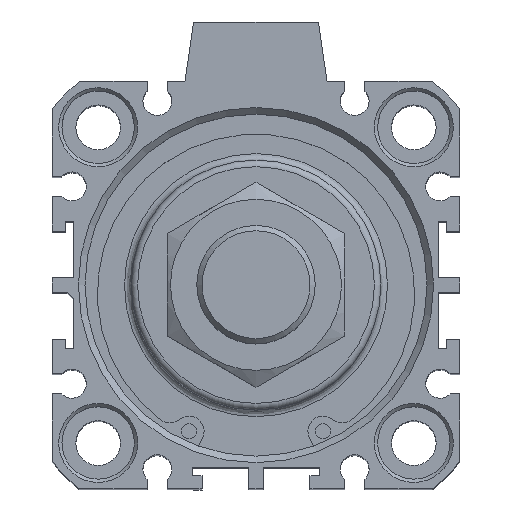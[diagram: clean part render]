
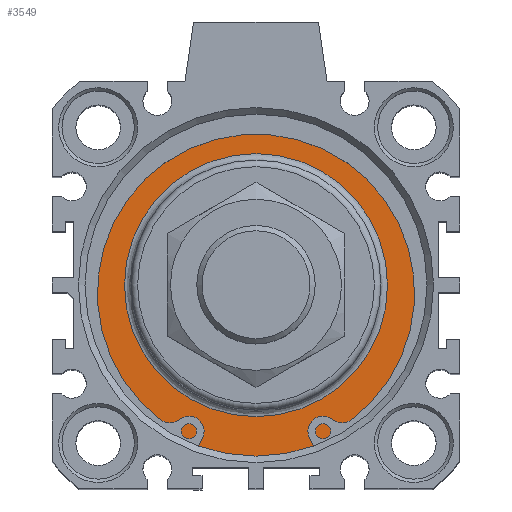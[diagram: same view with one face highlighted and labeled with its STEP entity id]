
A CAD part, top view. The second image highlights one B-rep face of the part: STEP entity #3549.
In plain terms, the highlighted planar face has unit normal (0, 0, 1).
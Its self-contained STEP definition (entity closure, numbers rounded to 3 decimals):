
#3498=CARTESIAN_POINT('',(-0.12,20.837,84.3));
#3499=VERTEX_POINT('',#3498);
#3500=CARTESIAN_POINT('',(-0.12,0.837,84.3));
#3501=DIRECTION('',(0.0,0.0,1.0));
#3502=DIRECTION('',(0.0,-1.0,0.0));
#3503=AXIS2_PLACEMENT_3D('',#3500,#3501,#3502);
#3504=CIRCLE('',#3503,20.);
#3505=EDGE_CURVE('',#3499,#3499,#3504,.T.);
#3530=CARTESIAN_POINT('',(-0.12,23.337,84.3));
#3531=DIRECTION('',(0.0,0.0,1.0));
#3532=DIRECTION('',(1.0,0.0,0.0));
#3533=AXIS2_PLACEMENT_3D('',#3530,#3531,#3532);
#3534=PLANE('',#3533);
#3535=CARTESIAN_POINT('',(-0.12,26.837,84.3));
#3536=VERTEX_POINT('',#3535);
#3537=CARTESIAN_POINT('',(-0.12,0.837,84.3));
#3538=DIRECTION('',(0.0,0.0,-1.0));
#3539=DIRECTION('',(0.0,1.0,0.0));
#3540=AXIS2_PLACEMENT_3D('',#3537,#3538,#3539);
#3541=CIRCLE('',#3540,26.);
#3542=EDGE_CURVE('',#3536,#3536,#3541,.T.);
#3543=ORIENTED_EDGE('',*,*,#3542,.F.);
#3544=EDGE_LOOP('',(#3543));
#3545=FACE_OUTER_BOUND('',#3544,.T.);
#3546=ORIENTED_EDGE('',*,*,#3505,.F.);
#3547=EDGE_LOOP('',(#3546));
#3548=FACE_BOUND('',#3547,.T.);
#3549=ADVANCED_FACE('',(#3545,#3548),#3534,.T.);
